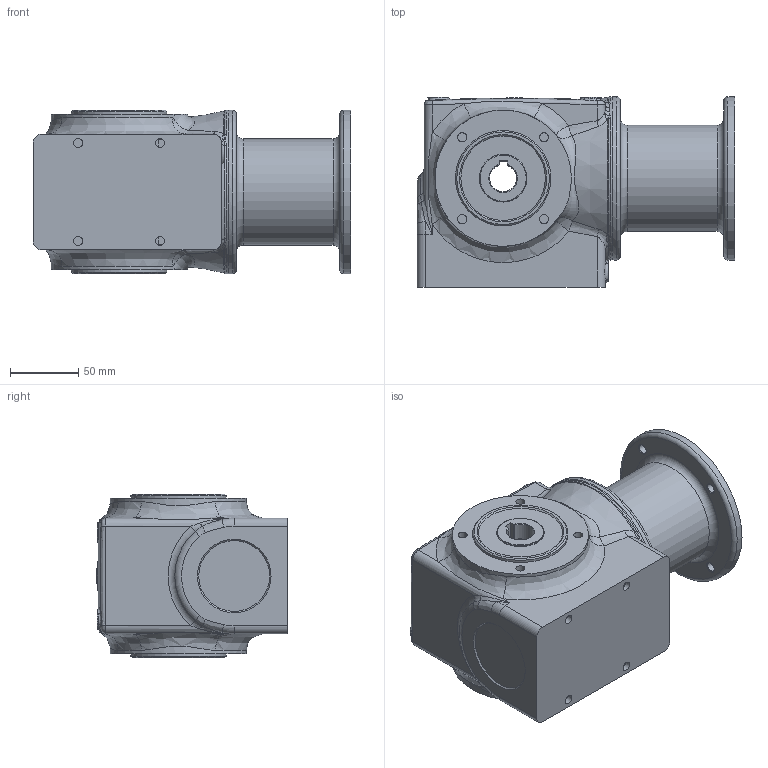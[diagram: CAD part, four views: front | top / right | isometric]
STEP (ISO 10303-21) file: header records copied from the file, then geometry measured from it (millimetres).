
FILE_DESCRIPTION(/* description */ (''),/* implementation_level */ '2;1');
FILE_NAME(/* name */ 'Z:\Dertec\RVS pakket tekeningen\Kasten\FSA + FS serie\FSA\FSA38\Step Customer\FSA38 HA20 AMFL 80B14A #.stp',/* time_stamp */ '2017-12-08T11:24:38+01:00',/* author */ ('Dertec'),/* organization */ (''),/* preprocessor_version */ 'ST-DEVELOPER v16.1',/* originating_system */ 'Autodesk Inventor 2016',/* authorisation */ '');
FILE_SCHEMA (('AUTOMOTIVE_DESIGN { 1 0 10303 214 3 1 1 }'));
Length unit declared in the file: inch
Products named in the file (1): Part49
Bounding box: 233 x 140 x 120 mm (x, y, z)
Volume: 1884069.4 mm3; surface area: 210881.6 mm2
Topology: 2 solids, 4 shells, 313 faces, 695 edges, 429 vertices
Faces by surface type: plane 93, bspline 84, cylinder 82, torus 28, cone 26
Full cylindrical faces by diameter (mm): 4.917 x4, 6.647 x12, 7 x8, 34.8 x1, 34.9 x2, 35 x4, 40.5 x1, 46 x1, 47 x1, 62 x4, 65 x2, 68 x2, 68.6 x1, 69 x1, 70 x2, 71 x1, 72 x1, 78 x1, 80 x2, 84 x2, 87 x2, 120 x3
Entity records: 12512 total; most frequent: CARTESIAN_POINT 6180, ORIENTED_EDGE 1166, DIRECTION 1087, EDGE_CURVE 583, AXIS2_PLACEMENT_3D 495, EDGE_LOOP 462, VERTEX_POINT 411, STYLED_ITEM 315
